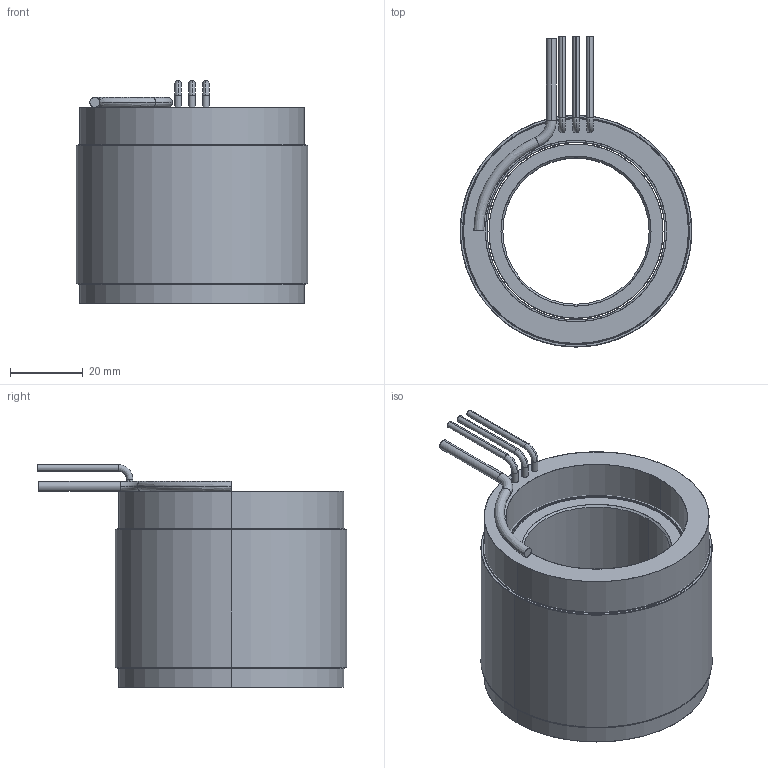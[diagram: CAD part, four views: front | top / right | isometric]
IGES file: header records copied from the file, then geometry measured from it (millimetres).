
Start section: SolidWorks IGES file using analytic representation for surfaces
Global section: file name: \\fs01.aveox.local\user documents\eng\My Documents\6100391-XX UAV STANDARD STATOR AND ROTOR SET 2.5OD 27S24P\6100391-05.IGS; native system: SolidWorks 2016; preprocessor: SolidWorks 2016; author: eng; date: 201214.184206; units: inch
Bounding box: 63.5 x 84.96 x 61.09 mm (x, y, z)
Surface area: 59595.7 mm2 (no closed solid volume)
Topology: 0 solids, 0 shells, 75 faces, 2288 edges, 2288 vertices
Faces by surface type: revolution 46, bspline 29
